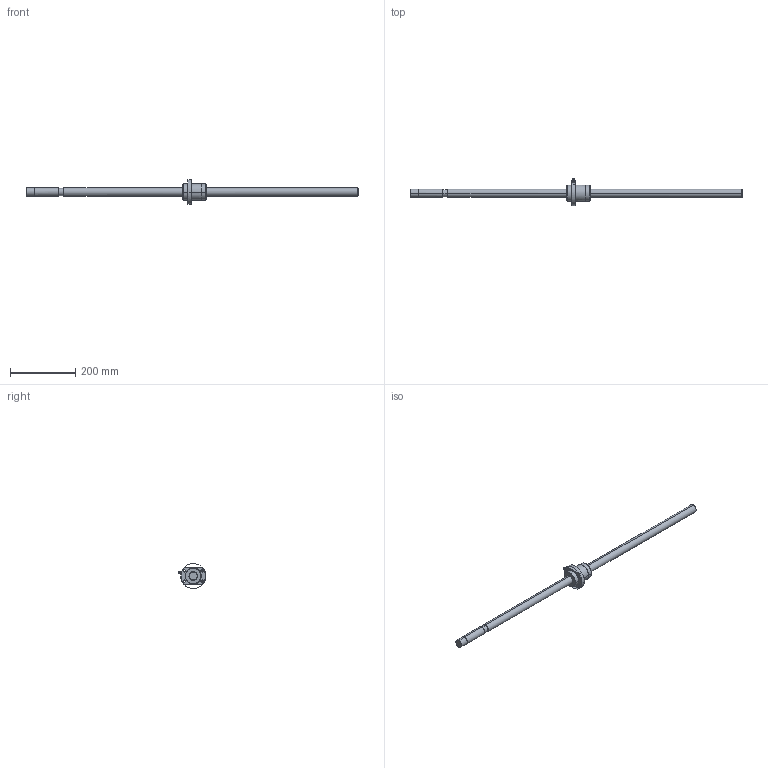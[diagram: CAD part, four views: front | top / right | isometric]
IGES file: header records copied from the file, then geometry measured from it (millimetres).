
Global section: file name: No Iges File Name specified; native system: AutoDesk Inventor R10; preprocessor: AutoDesk Inventor Iges Exporter R10; author: No Author specified; organization: No Organization specified; date: 20101224.134500; units: millimetre
Bounding box: 1015 x 83.6 x 75.97 mm (x, y, z)
Surface area: 106995.1 mm2 (no closed solid volume)
Topology: 0 solids, 0 shells, 80 faces, 488 edges, 484 vertices
Faces by surface type: bspline 80
